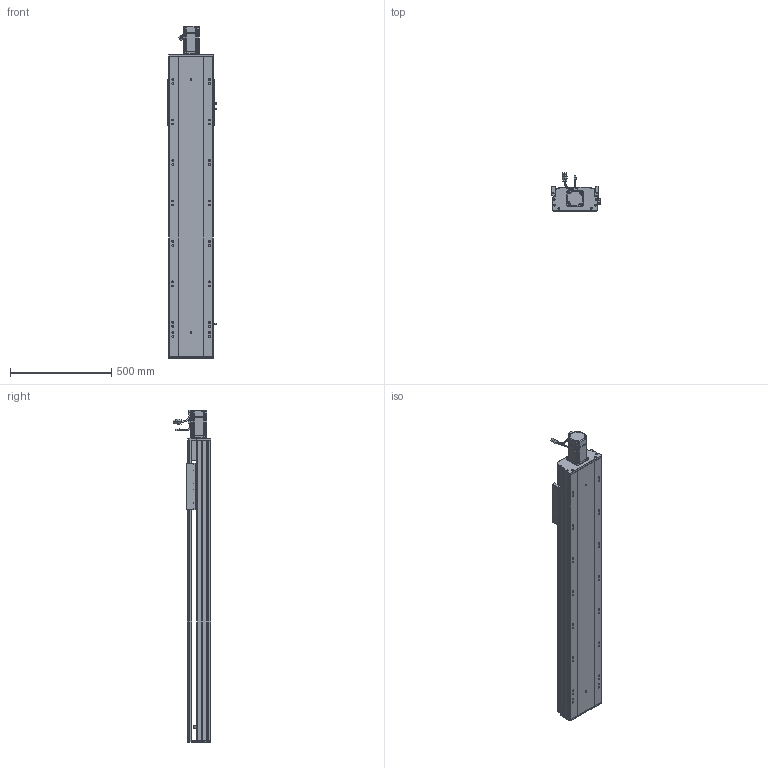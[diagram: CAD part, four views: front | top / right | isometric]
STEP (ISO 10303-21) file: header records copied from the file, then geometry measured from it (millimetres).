
FILE_DESCRIPTION (( 'STEP AP203' ), '1' );
FILE_NAME ('RY220-L2525-800-MK-邧嶺.SLDASM_1050.step', '2022-08-06T08:57:30', ( '' ), ( '' ), 'SwSTEP 2.0', 'SolidWorks 2016', '' );
FILE_SCHEMA (( 'CONFIG_CONTROL_DESIGN' ));
Length unit declared in the file: millimetre
Products named in the file (12): RY220菁釱MK-800-邧嶺_1050; RY220-L2525-800-MK-邧嶺.SLDASM_1050; 怢湛750W_ECMA-CX0807ES; RY220-俋离672覜茼んえ; RY220ヶ裔啣; RY220-800-奻裔啣-MK_1050; RY220电机支撑座FK20（PCD90M6）; 覜茼ん672; 滅袉蝶18-15; 滅袉蝶18-12; RY220綴裔啣; RY220半封闭25-32螺母铝滑块
Assembly tree (15 placements, depth 2):
  RY220-L2525-800-MK-邧嶺.SLDASM_1050
    RY220菁釱MK-800-邧嶺_1050
    RY220电机支撑座FK20（PCD90M6）
    怢湛750W_ECMA-CX0807ES
    滅袉蝶18-12  x2
    RY220ヶ裔啣
    RY220綴裔啣
    覜茼ん672  x3
    RY220半封闭25-32螺母铝滑块
    RY220-800-奻裔啣-MK_1050
    RY220-俋离672覜茼んえ
    滅袉蝶18-15  x2
Bounding box: 238.7 x 187.27 x 1640.3 mm (x, y, z)
Volume: 12869122.3 mm3; surface area: 3602033 mm2
Topology: 16 solids, 16 shells, 2256 faces, 6258 edges, 3948 vertices
Faces by surface type: cylinder 1022, plane 915, cone 257, bspline 36, sphere 16, torus 10
Entity records: 74248 total; most frequent: CARTESIAN_POINT 21081, ORIENTED_EDGE 11040, DIRECTION 10451, EDGE_CURVE 5520, AXIS2_PLACEMENT_3D 3681, VERTEX_POINT 3604, LINE 3089, VECTOR 3089
